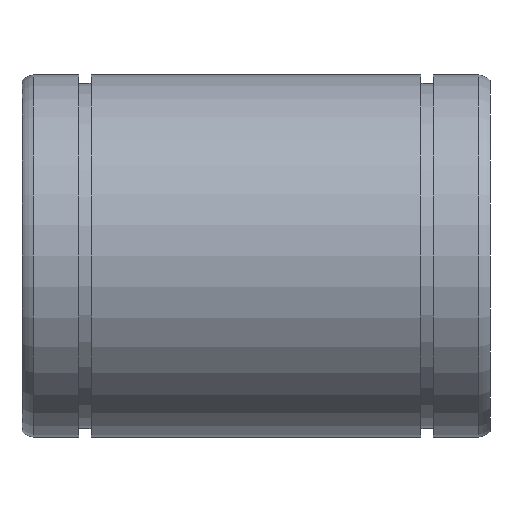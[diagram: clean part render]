
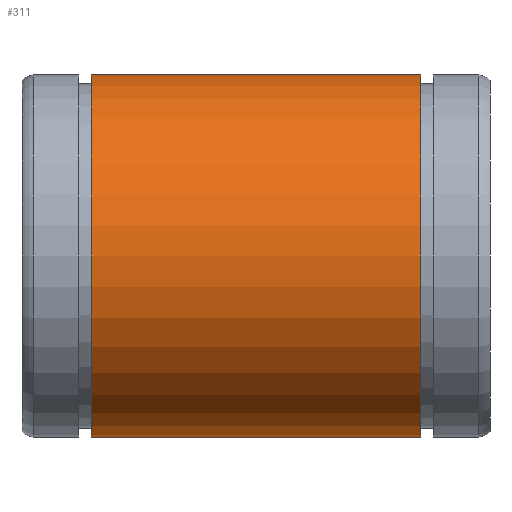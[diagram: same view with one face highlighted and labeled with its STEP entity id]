
A CAD part, front view. The second image highlights one B-rep face of the part: STEP entity #311.
In plain terms, the highlighted cylindrical face has radius 31 mm (diameter 62 mm), a full revolution.
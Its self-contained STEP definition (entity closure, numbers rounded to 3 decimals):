
#277=CARTESIAN_POINT('',(68.2,0.0,31.));
#278=VERTEX_POINT('',#277);
#279=CARTESIAN_POINT('',(68.2,0.0,0.));
#280=DIRECTION('',(-1.0,0.0,0.0));
#281=DIRECTION('',(0.0,0.0,1.0));
#282=AXIS2_PLACEMENT_3D('',#279,#280,#281);
#283=CIRCLE('',#282,31.);
#284=EDGE_CURVE('',#278,#278,#283,.T.);
#292=CARTESIAN_POINT('',(40.,0.0,0.));
#293=DIRECTION('',(-1.0,0.0,0.0));
#294=DIRECTION('',(0.0,0.0,1.0));
#295=AXIS2_PLACEMENT_3D('',#292,#293,#294);
#296=CYLINDRICAL_SURFACE('',#295,31.);
#297=CARTESIAN_POINT('',(11.8,0.0,31.0));
#298=VERTEX_POINT('',#297);
#299=CARTESIAN_POINT('',(11.8,0.0,0.));
#300=DIRECTION('',(-1.0,0.0,0.0));
#301=DIRECTION('',(0.0,0.0,1.0));
#302=AXIS2_PLACEMENT_3D('',#299,#300,#301);
#303=CIRCLE('',#302,31.);
#304=EDGE_CURVE('',#298,#298,#303,.T.);
#305=ORIENTED_EDGE('',*,*,#304,.F.);
#306=EDGE_LOOP('',(#305));
#307=FACE_OUTER_BOUND('',#306,.T.);
#308=ORIENTED_EDGE('',*,*,#284,.T.);
#309=EDGE_LOOP('',(#308));
#310=FACE_BOUND('',#309,.T.);
#311=ADVANCED_FACE('',(#307,#310),#296,.T.);
